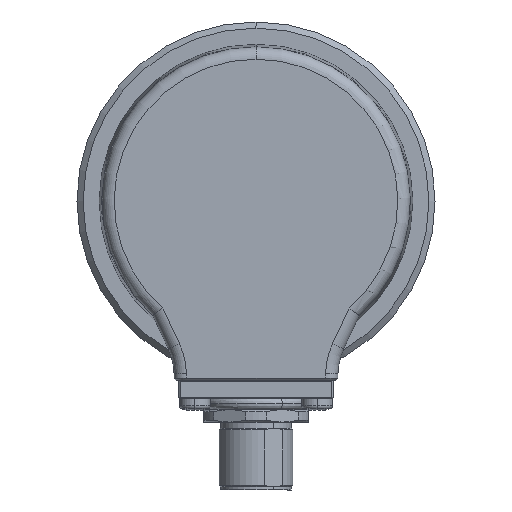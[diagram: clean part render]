
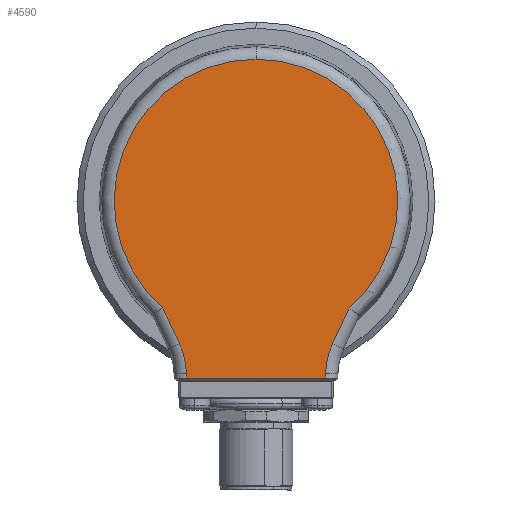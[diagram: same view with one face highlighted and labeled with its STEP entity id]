
A CAD part, left-side view. The second image highlights one B-rep face of the part: STEP entity #4590.
In plain terms, the highlighted planar face has unit normal (-1, 0, 0).
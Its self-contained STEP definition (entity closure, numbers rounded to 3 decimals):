
#93 = PLANE ( 'NONE',  #19221 ) ;
#477 = DIRECTION ( 'NONE',  ( 0., -0.423, -0.906 ) ) ;
#553 = VERTEX_POINT ( 'NONE', #6383 ) ;
#1124 = CIRCLE ( 'NONE', #16707, 22.972 ) ;
#1218 = VERTEX_POINT ( 'NONE', #16070 ) ;
#1303 = CARTESIAN_POINT ( 'NONE',  ( -21., 11.752, -0.205 ) ) ;
#1575 = CARTESIAN_POINT ( 'NONE',  ( -21., 0., 0. ) ) ;
#1633 = DIRECTION ( 'NONE',  ( 1., 0., 0. ) ) ;
#1839 = CARTESIAN_POINT ( 'NONE',  ( -21., 23.266, -28.183 ) ) ;
#1992 = DIRECTION ( 'NONE',  ( 0., -1., 0. ) ) ;
#2247 = DIRECTION ( 'NONE',  ( 0., -0.423, 0.906 ) ) ;
#2360 = VERTEX_POINT ( 'NONE', #8894 ) ;
#3120 = AXIS2_PLACEMENT_3D ( 'NONE', #13032, #3920, #14569 ) ;
#3358 = ORIENTED_EDGE ( 'NONE', *, *, #3801, .T. ) ;
#3359 = DIRECTION ( 'NONE',  ( 0., 0., 1. ) ) ;
#3801 = EDGE_CURVE ( 'NONE', #9613, #7399, #9332, .T. ) ;
#3920 = DIRECTION ( 'NONE',  ( -1., 0., 0. ) ) ;
#3962 = DIRECTION ( 'NONE',  ( 1., 0., 0. ) ) ;
#4339 = VECTOR ( 'NONE', #2247, 1000. ) ;
#4590 = ADVANCED_FACE ( 'NONE', ( #9060 ), #93, .F. ) ;
#4751 = ORIENTED_EDGE ( 'NONE', *, *, #8671, .T. ) ;
#5154 = AXIS2_PLACEMENT_3D ( 'NONE', #1839, #12473, #3359 ) ;
#5855 = EDGE_CURVE ( 'NONE', #2360, #6680, #19775, .T. ) ;
#6187 = ORIENTED_EDGE ( 'NONE', *, *, #10825, .T. ) ;
#6383 = CARTESIAN_POINT ( 'NONE',  ( -21., -11.268, -27.974 ) ) ;
#6680 = VERTEX_POINT ( 'NONE', #8672 ) ;
#6771 = CARTESIAN_POINT ( 'NONE',  ( -21., -11.752, -0.205 ) ) ;
#7313 = LINE ( 'NONE', #14166, #18558 ) ;
#7399 = VERTEX_POINT ( 'NONE', #18063 ) ;
#7573 = CARTESIAN_POINT ( 'NONE',  ( -21., -11.255, -28.695 ) ) ;
#7582 = VECTOR ( 'NONE', #16567, 1000. ) ;
#7793 = EDGE_CURVE ( 'NONE', #553, #9613, #9452, .T. ) ;
#7898 = CIRCLE ( 'NONE', #3120, 22.972 ) ;
#8428 = CARTESIAN_POINT ( 'NONE',  ( -21., 15.091, -17.32 ) ) ;
#8522 = CARTESIAN_POINT ( 'NONE',  ( -21., 12.39, -23.112 ) ) ;
#8537 = CARTESIAN_POINT ( 'NONE',  ( -21., 0., 0. ) ) ;
#8671 = EDGE_CURVE ( 'NONE', #1218, #13337, #1124, .T. ) ;
#8672 = CARTESIAN_POINT ( 'NONE',  ( -21., 11.255, -28.695 ) ) ;
#8894 = CARTESIAN_POINT ( 'NONE',  ( -21., 11.268, -27.974 ) ) ;
#9060 = FACE_OUTER_BOUND ( 'NONE', #13321, .T. ) ;
#9104 = ORIENTED_EDGE ( 'NONE', *, *, #17018, .T. ) ;
#9332 = LINE ( 'NONE', #12876, #4339 ) ;
#9452 = CIRCLE ( 'NONE', #17221, 12. ) ;
#9570 = CARTESIAN_POINT ( 'NONE',  ( -21., 12.39, -23.112 ) ) ;
#9613 = VERTEX_POINT ( 'NONE', #16625 ) ;
#10062 = DIRECTION ( 'NONE',  ( 0., 0., 1. ) ) ;
#10401 = LINE ( 'NONE', #9570, #14013 ) ;
#10825 = EDGE_CURVE ( 'NONE', #11078, #2360, #17160, .T. ) ;
#10840 = LINE ( 'NONE', #6771, #14440 ) ;
#11078 = VERTEX_POINT ( 'NONE', #8522 ) ;
#11360 = EDGE_CURVE ( 'NONE', #13337, #11078, #10401, .T. ) ;
#12264 = DIRECTION ( 'NONE',  ( 0., 0., 1. ) ) ;
#12375 = EDGE_CURVE ( 'NONE', #14788, #553, #10840, .T. ) ;
#12473 = DIRECTION ( 'NONE',  ( 1., 0., 0. ) ) ;
#12876 = CARTESIAN_POINT ( 'NONE',  ( -21., -14.953, -17.615 ) ) ;
#13032 = CARTESIAN_POINT ( 'NONE',  ( -21., 0., 0. ) ) ;
#13086 = CARTESIAN_POINT ( 'NONE',  ( -21., -23.266, -28.183 ) ) ;
#13142 = ORIENTED_EDGE ( 'NONE', *, *, #19044, .T. ) ;
#13321 = EDGE_LOOP ( 'NONE', ( #17506, #13142, #19466, #15447, #3358, #9104, #4751, #13539, #6187 ) ) ;
#13337 = VERTEX_POINT ( 'NONE', #8428 ) ;
#13539 = ORIENTED_EDGE ( 'NONE', *, *, #11360, .T. ) ;
#14013 = VECTOR ( 'NONE', #477, 1000. ) ;
#14166 = CARTESIAN_POINT ( 'NONE',  ( -21., -11.25, -28.695 ) ) ;
#14440 = VECTOR ( 'NONE', #17455, 1000. ) ;
#14569 = DIRECTION ( 'NONE',  ( 0., 0., 1. ) ) ;
#14621 = DIRECTION ( 'NONE',  ( 0., 0., 1. ) ) ;
#14788 = VERTEX_POINT ( 'NONE', #7573 ) ;
#15447 = ORIENTED_EDGE ( 'NONE', *, *, #7793, .T. ) ;
#16070 = CARTESIAN_POINT ( 'NONE',  ( -21., 0., 22.972 ) ) ;
#16567 = DIRECTION ( 'NONE',  ( 0., -0.017, -1. ) ) ;
#16625 = CARTESIAN_POINT ( 'NONE',  ( -21., -12.39, -23.112 ) ) ;
#16707 = AXIS2_PLACEMENT_3D ( 'NONE', #8537, #19252, #10062 ) ;
#17018 = EDGE_CURVE ( 'NONE', #7399, #1218, #7898, .T. ) ;
#17160 = CIRCLE ( 'NONE', #5154, 12. ) ;
#17221 = AXIS2_PLACEMENT_3D ( 'NONE', #13086, #3962, #14621 ) ;
#17455 = DIRECTION ( 'NONE',  ( 0., -0.017, 1. ) ) ;
#17506 = ORIENTED_EDGE ( 'NONE', *, *, #5855, .T. ) ;
#18063 = CARTESIAN_POINT ( 'NONE',  ( -21., -15.091, -17.32 ) ) ;
#18558 = VECTOR ( 'NONE', #1992, 1000. ) ;
#19044 = EDGE_CURVE ( 'NONE', #6680, #14788, #7313, .T. ) ;
#19221 = AXIS2_PLACEMENT_3D ( 'NONE', #1575, #1633, #12264 ) ;
#19252 = DIRECTION ( 'NONE',  ( -1., 0., 0. ) ) ;
#19466 = ORIENTED_EDGE ( 'NONE', *, *, #12375, .T. ) ;
#19775 = LINE ( 'NONE', #1303, #7582 ) ;
